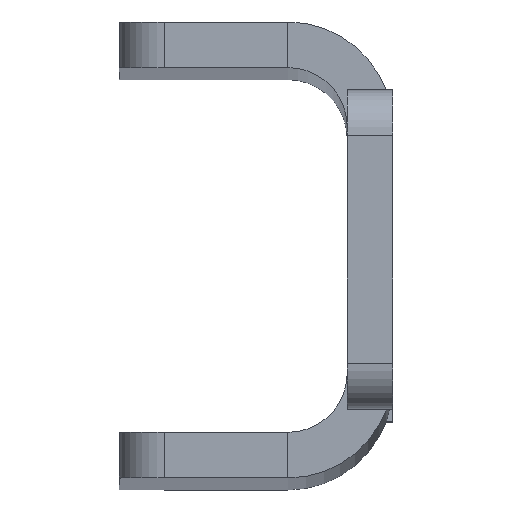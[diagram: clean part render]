
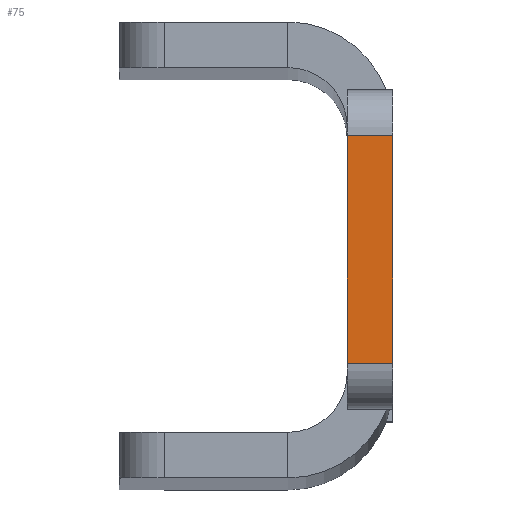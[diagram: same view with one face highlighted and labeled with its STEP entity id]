
A CAD part, top view. The second image highlights one B-rep face of the part: STEP entity #75.
In plain terms, the highlighted planar face has unit normal (0, 0, 1).
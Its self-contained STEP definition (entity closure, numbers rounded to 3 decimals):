
#75=ADVANCED_FACE('',(#629),#631,.T.);
#629=FACE_BOUND('',#630,.T.);
#630=EDGE_LOOP('',(#1100,#1101,#1102,#1103));
#631=PLANE('',#632);
#632=AXIS2_PLACEMENT_3D('',#633,#634,#635);
#633=CARTESIAN_POINT('',(0.,0.,333.));
#634=DIRECTION('',(0.,0.,1.));
#635=DIRECTION('',(1.,0.,0.));
#1100=ORIENTED_EDGE('',*,*,#1362,.T.);
#1101=ORIENTED_EDGE('',*,*,#1311,.T.);
#1102=ORIENTED_EDGE('',*,*,#1363,.F.);
#1103=ORIENTED_EDGE('',*,*,#1327,.T.);
#1311=EDGE_CURVE('',#1425,#1461,#1463,.T.);
#1327=EDGE_CURVE('',#1495,#1492,#1496,.T.);
#1362=EDGE_CURVE('',#1492,#1425,#1562,.T.);
#1363=EDGE_CURVE('',#1495,#1461,#1563,.T.);
#1425=VERTEX_POINT('',#1649);
#1461=VERTEX_POINT('',#1724);
#1463=LINE('',#1729,#1730);
#1492=VERTEX_POINT('',#1802);
#1495=VERTEX_POINT('',#1808);
#1496=LINE('',#1809,#1810);
#1562=LINE('',#1962,#1963);
#1563=LINE('',#1965,#1966);
#1649=CARTESIAN_POINT('',(12.,5.,333.));
#1724=CARTESIAN_POINT('',(12.,15.,333.));
#1729=CARTESIAN_POINT('',(12.,5.,333.));
#1730=VECTOR('',#1731,1.);
#1731=DIRECTION('',(0.,1.,0.));
#1802=CARTESIAN_POINT('',(10.,5.,333.));
#1808=CARTESIAN_POINT('',(10.,15.,333.));
#1809=CARTESIAN_POINT('',(10.,15.,333.));
#1810=VECTOR('',#1811,1.);
#1811=DIRECTION('',(0.,-1.,0.));
#1962=CARTESIAN_POINT('',(10.,5.,333.));
#1963=VECTOR('',#1964,1.);
#1964=DIRECTION('',(1.,0.,0.));
#1965=CARTESIAN_POINT('',(10.,15.,333.));
#1966=VECTOR('',#1967,1.);
#1967=DIRECTION('',(1.,0.,0.));
